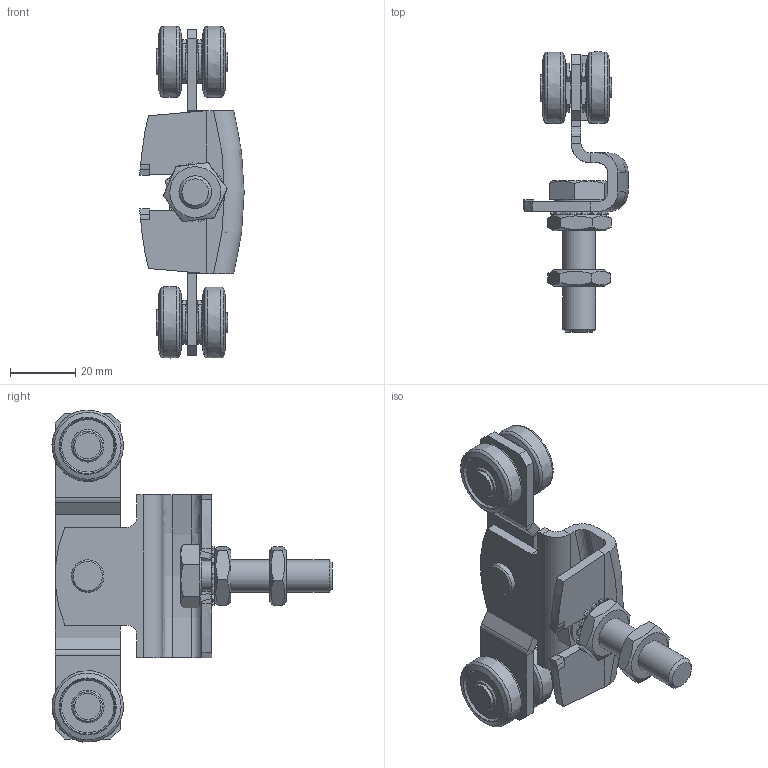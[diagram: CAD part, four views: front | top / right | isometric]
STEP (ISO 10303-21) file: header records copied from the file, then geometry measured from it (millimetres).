
FILE_DESCRIPTION(/* description */ ('Rollenhalter zu Doppelrolle Nr.0'),/* implementation_level */ '2;1');
FILE_NAME(/* name */ 'Q:\sge-ma\Produktmanagement-STB\STB\Workspace\TraceParts\Doppelrolle mit Kunststoffaußenring\010336403.stp',/* time_stamp */ '2018-02-21T12:34:09+01:00',/* author */ ('avschreier'),/* organization */ (''),/* preprocessor_version */ 'ST-DEVELOPER v16.1',/* originating_system */ 'Autodesk Inventor 2016',/* authorisation */ '');
FILE_SCHEMA (('CONFIG_CONTROL_DESIGN'));
Length unit declared in the file: millimetre
Products named in the file (10): 337000122; 337000223; 336290000; 000303230; 000302243; 000304010; DIN_6798-A_10,5_en; DIN_EN_ISO_4017-M10x40_en; DIN_EN_ISO_4035-M10_en; 010336403
Assembly tree (17 placements, depth 2):
  010336403
    337000122
    337000223
    336290000  x4
    000303230  x4
    000302243
    000304010  x2
    DIN_6798-A_10,5_en
    DIN_EN_ISO_4017-M10x40_en
    DIN_EN_ISO_4035-M10_en  x2
Bounding box: 32 x 85.99 x 101.89 mm (x, y, z)
Volume: 33056.9 mm3; surface area: 24061.5 mm2
Topology: 17 solids, 17 shells, 410 faces, 987 edges, 628 vertices
Faces by surface type: plane 217, cylinder 120, cone 53, torus 14, bspline 6
Full cylindrical faces by diameter (mm): 6 x7, 6.1 x6, 8 x2, 8.376 x2, 9.188 x1, 10 x2, 10.5 x1, 15.4 x1
Entity records: 9190 total; most frequent: CARTESIAN_POINT 1994, DIRECTION 1534, ORIENTED_EDGE 1384, EDGE_CURVE 692, AXIS2_PLACEMENT_3D 567, VERTEX_POINT 457, LINE 400, VECTOR 400
